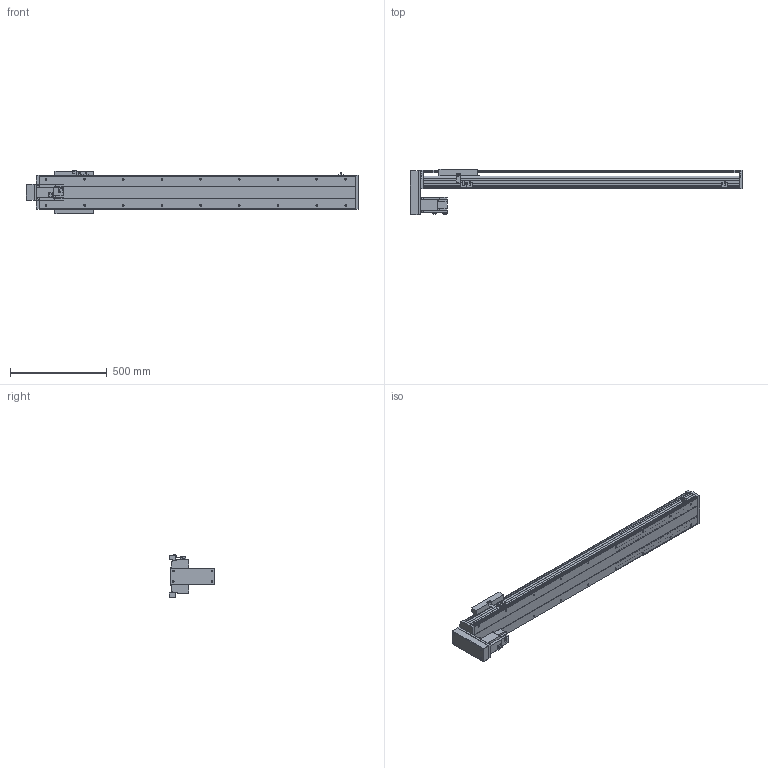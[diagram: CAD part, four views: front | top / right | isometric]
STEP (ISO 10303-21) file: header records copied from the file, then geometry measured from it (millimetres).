
FILE_DESCRIPTION(/* description */ ('STEP AP214'),/* implementation_level */ '2;1');
FILE_NAME(/* name */ 'PSS200-L10-S1300-BM-T75-C1-N(0)',/* time_stamp */ '2022-06-29T09:55:22+02:00',/* author */ ('License CC BY-ND 4.0'),/* organization */ ('CADENAS'),/* preprocessor_version */ 'ST-DEVELOPER v18.102',/* originating_system */ 'PARTsolutions',/* authorisation */ ' ');
FILE_SCHEMA (('AUTOMOTIVE_DESIGN {1 0 10303 214 3 1 1}'));
Length unit declared in the file: millimetre
Products named in the file (8): PSS200-L10-S1300-BM-T75-C1-N(0); PSS200-S1300-BM-N_S; T75-p1; PSS200BM-N_h; PSS200-N_sensor; PSS200-BM-C1-N_sl; PSS200-N_Q; PSS200-S1300-BM-C1-N_body
Assembly tree (9 placements, depth 2):
  PSS200-L10-S1300-BM-T75-C1-N(0)
    PSS200-S1300-BM-N_S
    T75-p1
    PSS200BM-N_h
    PSS200-N_sensor  x3
    PSS200-BM-C1-N_sl
    PSS200-N_Q
    PSS200-S1300-BM-C1-N_body
Bounding box: 1716.85 x 234.45 x 223.86 mm (x, y, z)
Volume: 10588983.1 mm3; surface area: 2633846 mm2
Topology: 9 solids, 9 shells, 610 faces, 1637 edges, 1086 vertices
Faces by surface type: plane 452, cylinder 128, cone 26, sphere 4
Full cylindrical faces by diameter (mm): 4 x2, 4.5 x4, 6 x7, 6.647 x22, 7.4 x4, 8 x8, 10 x6, 25 x1, 40 x1, 67 x1
Entity records: 16960 total; most frequent: CARTESIAN_POINT 2933, DIRECTION 2807, ORIENTED_EDGE 2758, EDGE_CURVE 1379, LINE 1071, VECTOR 1071, VERTEX_POINT 962, AXIS2_PLACEMENT_3D 868
